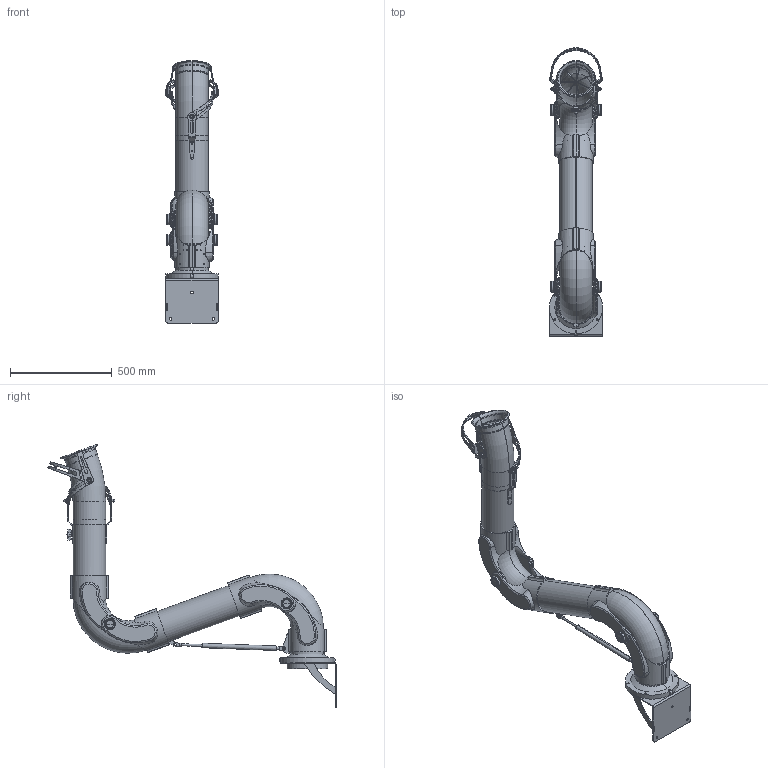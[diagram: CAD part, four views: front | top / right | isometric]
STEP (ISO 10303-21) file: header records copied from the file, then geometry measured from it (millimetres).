
FILE_DESCRIPTION((''),'2;1');
FILE_NAME('124973','2019-03-11T08:55:04',('Gustav Stenberg'),(''),'CREO PARAMETRIC BY PTC INC, 2018260','CREO PARAMETRIC BY PTC INC, 2018260','');
FILE_SCHEMA(('AP242_MANAGED_MODEL_BASED_3D_ENGINEERING_MIM_LF { 1 0 10303 442 1 1 4 }'));
Length unit declared in the file: millimetre
Products named in the file (43): LIGHT_SWIVEL_160_AF0; 126194; G_PRX_SVIVEL_SPRINGMOUNT; 138752; 124030; 124031; 105-5481_1; 101156_1; 124035_AF0; 124035_AF1; 124035_AF2; 124035_AF3; 124883; 124892; 124866; 125076; 124874; 124949; 126055_AF17; 124962_AF0; 142700; 142473; 199-808-160; 142440; 142441; 142491; 142858; 128231; 126056_AF0; 143145; 143004; 100-5835; 142481; 126055_AF18; 129694; G_GAS_SPRING_FORK_MOUNT; 126093; GAS_SPRING_ROD_BANSBACH; 102811-REF; 124366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
Assembly tree (61 placements, depth 5):
  124973
    138752
      126194
        LIGHT_SWIVEL_160_AF0
      G_PRX_SVIVEL_SPRINGMOUNT
    124035_AF0
      124030
      124031
      101156_1
        105-5481_1
    124035_AF1
      124030
      124031
      101156_1
        105-5481_1
    124962_AF0
      124035_AF2
        124030
        124031
        101156_1
          105-5481_1
      124035_AF3
        124030
        124031
        101156_1
          105-5481_1
      124883
      124949
        124892
        124874
          124866
          125076
      126055_AF17
    142481
      142700  x2
      142473  x2
      142858
        199-808-160
        142440
        142441
        142491
      128231
      126056_AF0
      143145  x4
      143004  x4
      100-5835
    126055_AF18
    126093
      129694
      G_GAS_SPRING_FORK_MOUNT
    102811-REF
      GAS_SPRING_ROD_BANSBACH
      G_GAS_SPRING_FORK_MOUNT
    124365
      124366
      123045  x2
Bounding box: 260.22 x 1413.83 x 1289.82 mm (x, y, z)
Volume: 11359857 mm3; surface area: 3773713 mm2
Topology: 46 solids, 46 shells, 1170 faces, 2916 edges, 1895 vertices
Faces by surface type: plane 469, cylinder 429, cone 112, bspline 94, torus 42, sphere 24
Entity records: 36457 total; most frequent: CARTESIAN_POINT 9950, DIRECTION 4097, ORIENTED_EDGE 3738, EDGE_CURVE 1869, AXIS2_PLACEMENT_3D 1564, PRESENTATION_STYLE_ASSIGNMENT 1451, STYLED_ITEM 1451, VERTEX_POINT 1167
